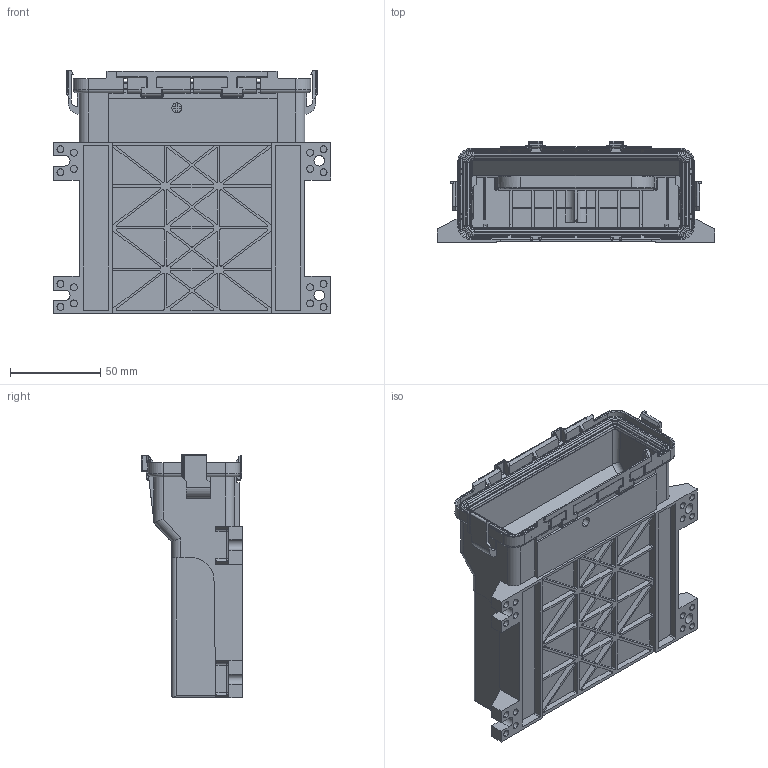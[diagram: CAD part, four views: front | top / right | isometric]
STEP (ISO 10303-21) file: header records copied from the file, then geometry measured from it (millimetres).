
FILE_DESCRIPTION((''),'2;1');
FILE_NAME('5810130059_ASM','2008-07-08T',('eake'),(''),'PRO/ENGINEER BY PARAMETRIC TECHNOLOGY CORPORATION, 2005451','PRO/ENGINEER BY PARAMETRIC TECHNOLOGY CORPORATION, 2005451','');
FILE_SCHEMA(('CONFIG_CONTROL_DESIGN'));
Length unit declared in the file: inch
Products named in the file (4): 4828770194; 463089918X_SEAL30; 4639901015; 5810130059_ASM
Assembly tree (3 placements, depth 2):
  5810130059_ASM
    4828770194
    463089918X_SEAL30
    4639901015
Bounding box: 153.16 x 56.01 x 134.62 mm (x, y, z)
Volume: 149988.9 mm3; surface area: 127212.4 mm2
Topology: 3 solids, 3 shells, 2050 faces, 5046 edges, 3088 vertices
Faces by surface type: plane 878, cylinder 759, torus 184, extrusion 72, bspline 70, sphere 67, cone 20
Entity records: 70367 total; most frequent: CARTESIAN_POINT 21838, DIRECTION 10119, ORIENTED_EDGE 10092, EDGE_CURVE 5046, AXIS2_PLACEMENT_3D 3511, VECTOR 3097, VERTEX_POINT 3088, LINE 3025
